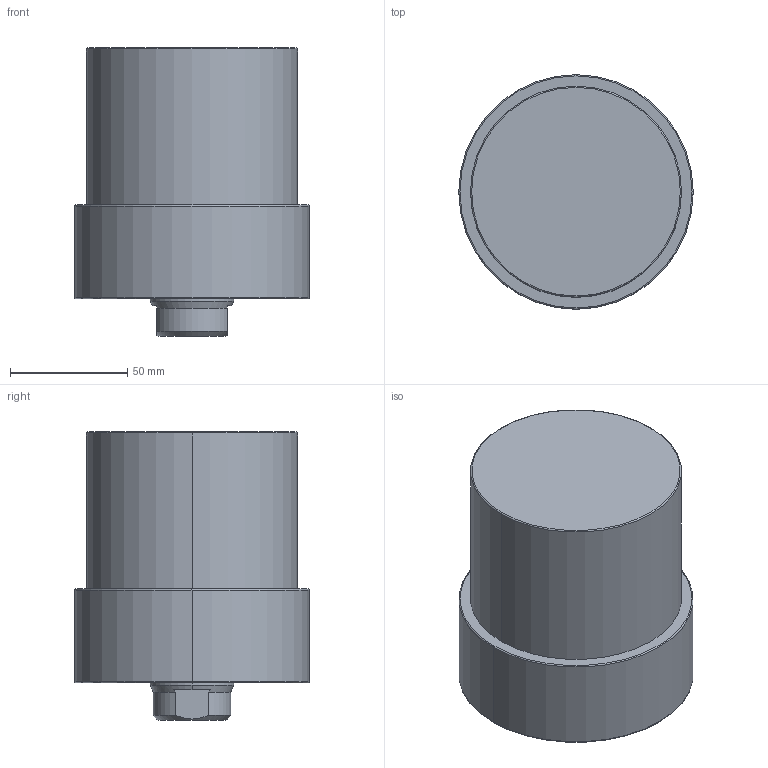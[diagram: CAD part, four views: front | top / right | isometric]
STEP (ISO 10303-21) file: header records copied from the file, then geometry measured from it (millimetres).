
FILE_DESCRIPTION (( 'STEP AP203' ), '1' );
FILE_NAME ('CLLU-090CA-045.STEP', '2020-01-11T00:36:03', ( '' ), ( '' ), 'SwSTEP 2.0', 'SolidWorks 2015', '' );
FILE_SCHEMA (( 'CONFIG_CONTROL_DESIGN' ));
Length unit declared in the file: millimetre
Products named in the file (1): CLLU-090CA-045
Bounding box: 100 x 100 x 123 mm (x, y, z)
Volume: 735944.4 mm3; surface area: 53793.3 mm2
Topology: 1 solids, 1 shells, 62 faces, 140 edges, 79 vertices
Faces by surface type: cone 24, cylinder 22, plane 10, torus 6
Entity records: 1767 total; most frequent: DIRECTION 320, CARTESIAN_POINT 316, ORIENTED_EDGE 260, AXIS2_PLACEMENT_3D 135, EDGE_CURVE 130, VERTEX_POINT 79, CIRCLE 72, EDGE_LOOP 71
